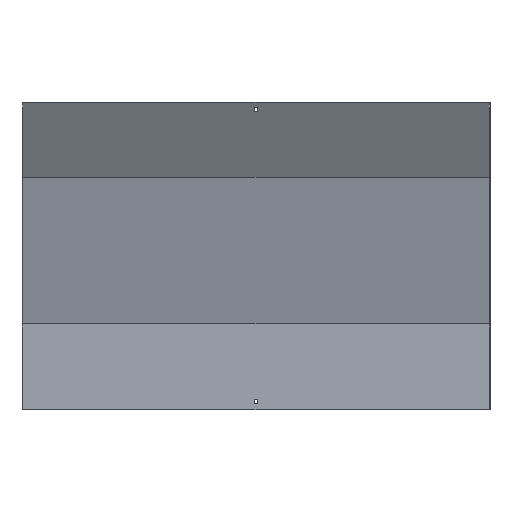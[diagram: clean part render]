
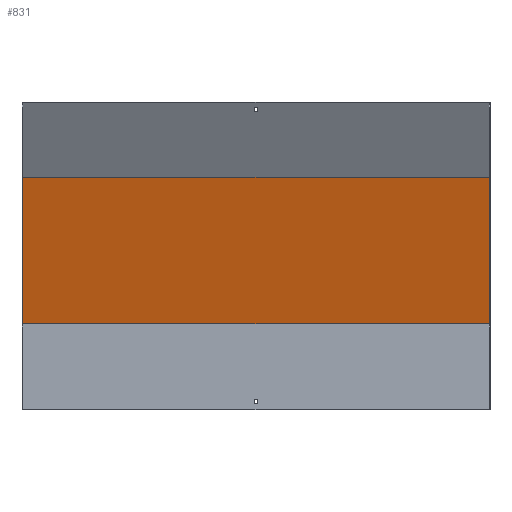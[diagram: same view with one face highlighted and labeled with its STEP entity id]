
A CAD part, front view. The second image highlights one B-rep face of the part: STEP entity #831.
In plain terms, the highlighted planar face has unit normal (0, -0.966, -0.259).
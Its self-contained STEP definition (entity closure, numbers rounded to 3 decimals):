
#60 = ORIENTED_EDGE ( 'NONE', *, *, #236, .T. ) ;
#100 = CARTESIAN_POINT ( 'NONE',  ( -450., 58.87, 15.774 ) ) ;
#118 = LINE ( 'NONE', #448, #586 ) ;
#120 = DIRECTION ( 'NONE',  ( 0., -0.966, -0.259 ) ) ;
#133 = VERTEX_POINT ( 'NONE', #561 ) ;
#139 = CARTESIAN_POINT ( 'NONE',  ( 451.5, 17.87, 168.788 ) ) ;
#184 = AXIS2_PLACEMENT_3D ( 'NONE', #139, #120, #391 ) ;
#230 = DIRECTION ( 'NONE',  ( 0., -0.259, 0.966 ) ) ;
#236 = EDGE_CURVE ( 'NONE', #454, #434, #118, .T. ) ;
#259 = EDGE_CURVE ( 'NONE', #133, #434, #687, .T. ) ;
#260 = LINE ( 'NONE', #840, #428 ) ;
#330 = CARTESIAN_POINT ( 'NONE',  ( 450., 58.87, 15.774 ) ) ;
#388 = ORIENTED_EDGE ( 'NONE', *, *, #541, .T. ) ;
#391 = DIRECTION ( 'NONE',  ( 0., 0.259, -0.966 ) ) ;
#401 = VERTEX_POINT ( 'NONE', #812 ) ;
#405 = DIRECTION ( 'NONE',  ( -1., 0., 0. ) ) ;
#428 = VECTOR ( 'NONE', #405, 1000. ) ;
#434 = VERTEX_POINT ( 'NONE', #754 ) ;
#448 = CARTESIAN_POINT ( 'NONE',  ( 451.5, -57.301, 449.327 ) ) ;
#454 = VERTEX_POINT ( 'NONE', #581 ) ;
#465 = ORIENTED_EDGE ( 'NONE', *, *, #259, .F. ) ;
#475 = VECTOR ( 'NONE', #782, 1000. ) ;
#481 = PLANE ( 'NONE',  #184 ) ;
#508 = DIRECTION ( 'NONE',  ( -1., 0., 0. ) ) ;
#541 = EDGE_CURVE ( 'NONE', #401, #454, #609, .T. ) ;
#555 = VECTOR ( 'NONE', #230, 1000. ) ;
#559 = ORIENTED_EDGE ( 'NONE', *, *, #759, .F. ) ;
#561 = CARTESIAN_POINT ( 'NONE',  ( -450., 18.5, 166.436 ) ) ;
#581 = CARTESIAN_POINT ( 'NONE',  ( 450., -57.301, 449.327 ) ) ;
#586 = VECTOR ( 'NONE', #508, 1000. ) ;
#609 = LINE ( 'NONE', #330, #475 ) ;
#687 = LINE ( 'NONE', #100, #555 ) ;
#724 = FACE_OUTER_BOUND ( 'NONE', #766, .T. ) ;
#754 = CARTESIAN_POINT ( 'NONE',  ( -450., -57.301, 449.327 ) ) ;
#759 = EDGE_CURVE ( 'NONE', #401, #133, #260, .T. ) ;
#766 = EDGE_LOOP ( 'NONE', ( #465, #559, #388, #60 ) ) ;
#782 = DIRECTION ( 'NONE',  ( 0., -0.259, 0.966 ) ) ;
#812 = CARTESIAN_POINT ( 'NONE',  ( 450., 18.5, 166.436 ) ) ;
#831 = ADVANCED_FACE ( 'NONE', ( #724 ), #481, .T. ) ;
#840 = CARTESIAN_POINT ( 'NONE',  ( 451.5, 18.5, 166.436 ) ) ;
